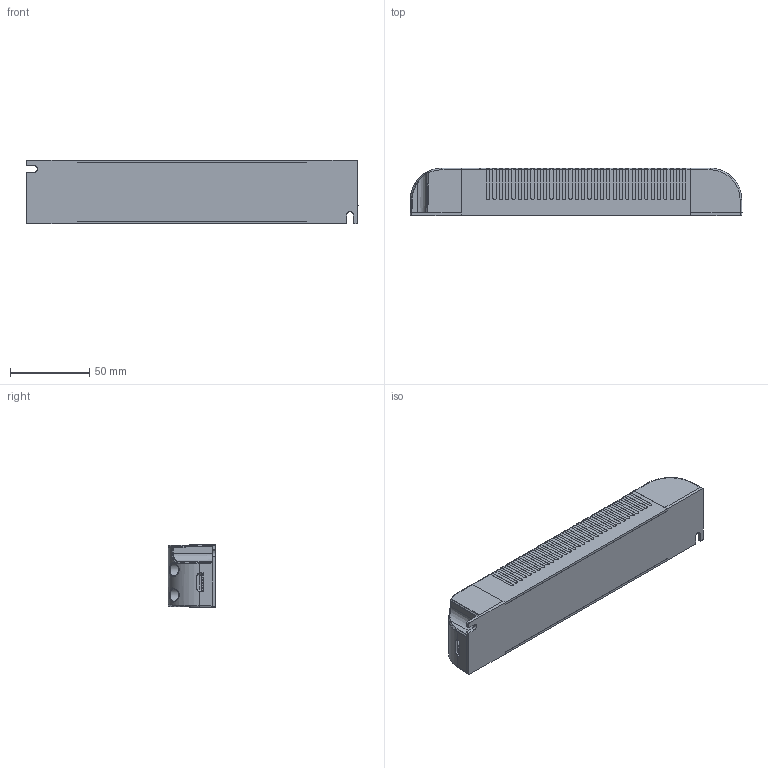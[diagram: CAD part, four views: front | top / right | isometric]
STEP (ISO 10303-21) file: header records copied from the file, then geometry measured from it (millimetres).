
FILE_DESCRIPTION(('Creo Elements/Direct Modeling STEP Export'),'2;1');
FILE_NAME('K81.stp','2020-01-23T 6:24:27',(''),(''),'PTC Creo Elements/Direct Modeling STEP processor for AP214 (Solid Model)','PTC Creo Elements/Direct Modeling 19.0E 27-Jun-2016 (C) Parametric Technology GmbH','');
FILE_SCHEMA(('AUTOMOTIVE_DESIGN { 1 0 10303 214 1 1 1 1 }'));
Products named in the file (1): K81.prt
Bounding box: 210 x 30 x 40 mm (x, y, z)
Volume: 51499.8 mm3; surface area: 75092.5 mm2
Topology: 1 solids, 1 shells, 1356 faces, 3966 edges, 2598 vertices
Faces by surface type: plane 816, cylinder 425, cone 57, bspline 40, torus 18
Entity records: 60101 total; most frequent: CARTESIAN_POINT 13190, ORIENTED_EDGE 7932, DIRECTION 7024, EDGE_CURVE 3966, VECTOR 2758, LINE 2758, VERTEX_POINT 2598, AXIS2_PLACEMENT_3D 2133
